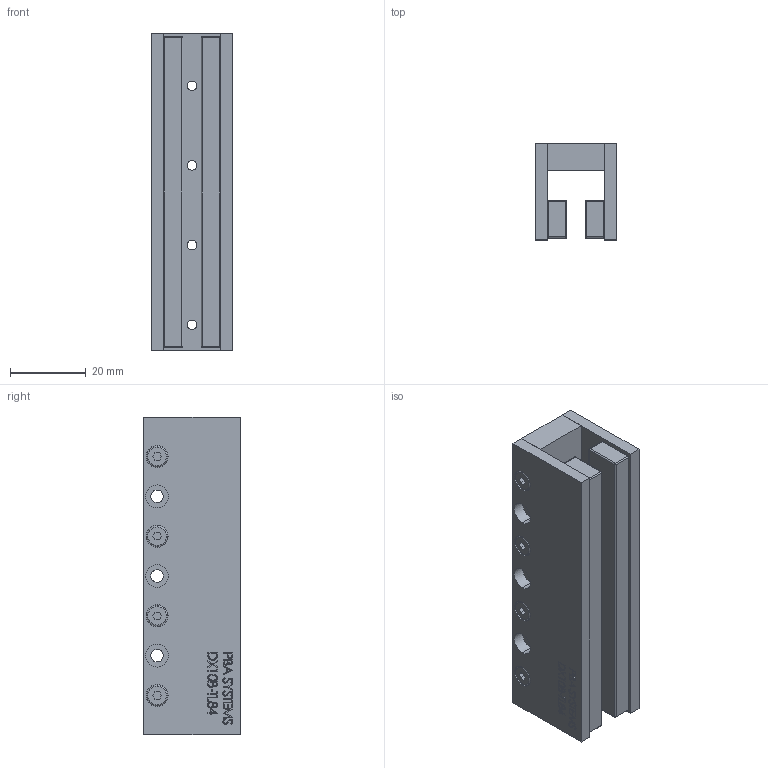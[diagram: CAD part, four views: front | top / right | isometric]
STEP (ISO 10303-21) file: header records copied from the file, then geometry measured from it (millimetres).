
FILE_DESCRIPTION (( 'STEP AP214' ), '1' );
FILE_NAME ('DX10B-TL84.STEP', '2016-07-14T07:38:37', ( '' ), ( '' ), 'SwSTEP 2.0', 'SolidWorks 2015', '' );
FILE_SCHEMA (( 'AUTOMOTIVE_DESIGN' ));
Length unit declared in the file: millimetre
Products named in the file (5): DX10B-0000-001_CUSTOMER_TL84; M3X8 DIN7984; DX10B-TL84-002; DX10B-TL84-001; DX10B-TL84
Assembly tree (13 placements, depth 2):
  DX10B-TL84
    DX10B-TL84-001
    DX10B-TL84-002  x2
    M3X8 DIN7984  x8
    DX10B-0000-001_CUSTOMER_TL84  x2
Bounding box: 21.6 x 25.4 x 83.7 mm (x, y, z)
Volume: 29830.1 mm3; surface area: 21599.5 mm2
Topology: 13 solids, 13 shells, 834 faces, 2102 edges, 1364 vertices
Faces by surface type: plane 460, bspline 204, cylinder 122, cone 16, torus 16, sphere 16
Entity records: 17182 total; most frequent: CARTESIAN_POINT 8003, ORIENTED_EDGE 1936, DIRECTION 1472, EDGE_CURVE 968, VECTOR 638, LINE 638, VERTEX_POINT 636, EDGE_LOOP 450
